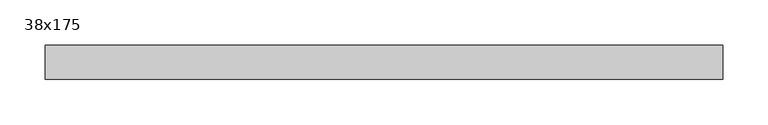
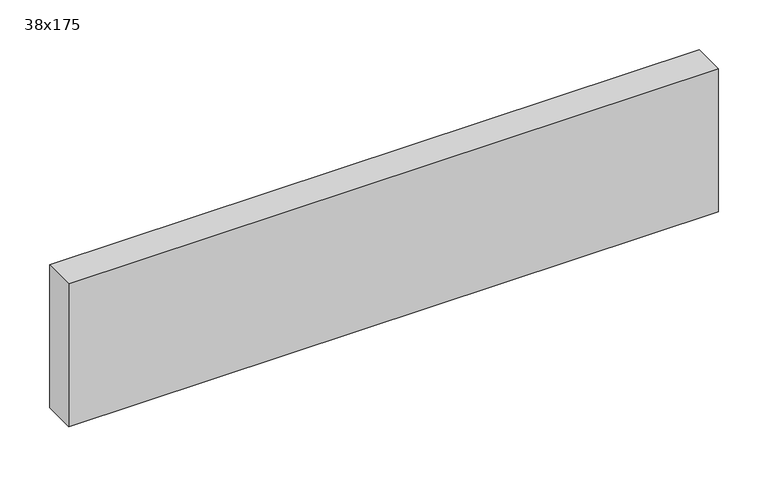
"""IFC4 building model written with IfcOpenShell, lengths in millimetres: beam geometry, Graded Timber : 38x175."""

import ifcopenshell
import ifcopenshell.guid

model = None  # the IFC model being written
_history = None  # IfcOwnerHistory: only IFC2X3 demands one
_inside = {}  # id of a spatial element -> (the spatial element, [elements in it])
_under = {}  # id of a project, library or spatial element -> (it, [spatial elements below it])
_declared = {}  # id of a project -> (the project, [libraries it declares])
_typed = {}  # id of a type object -> (the type object, [elements of that type])
_made_of = {}  # id of a material, layer set ... -> (it, [elements and type objects made of it])


def new_model(schema):
    """Start an empty IFC model of exactly this schema.

    Asked for "IFC4X3", IfcOpenShell would pick the latest addendum, in which some entities
    have other attributes; the version numbers below select the first issue.
    IFC2X3 requires an IfcOwnerHistory on every rooted entity: one is made here for all.
    """
    global model, _history
    if schema == "IFC4X3":
        model = ifcopenshell.file(schema_version=(4, 3, 0, 0))
    else:
        model = ifcopenshell.file(schema=schema)
    _inside.clear()
    _under.clear()
    _declared.clear()
    _typed.clear()
    _made_of.clear()
    _history = None
    if model.schema == "IFC2X3":
        org = make("IfcOrganization", Name="unknown")
        user = make(
            "IfcPersonAndOrganization",
            ThePerson=make("IfcPerson", FamilyName="unknown"),
            TheOrganization=org,
        )
        app = make(
            "IfcApplication",
            ApplicationDeveloper=org,
            Version="unknown",
            ApplicationFullName="unknown",
            ApplicationIdentifier="unknown",
        )
        _history = make(
            "IfcOwnerHistory",
            OwningUser=user,
            OwningApplication=app,
            ChangeAction="ADDED",
            CreationDate=0,
        )
    return model


def make(cls, **values):
    """One entity of the class cls with the attributes given. An attribute that is None is left unset."""
    return model.create_entity(
        cls, **{name: value for name, value in values.items() if value is not None}
    )


def rooted(cls, **values):
    """An entity with a GlobalId (a new one), such as an element, a storey or a relation."""
    return make(cls, GlobalId=ifcopenshell.guid.new(), OwnerHistory=_history, **values)


def si_unit(unit_type, name, prefix=None):
    """IfcSIUnit, for example si_unit("LENGTHUNIT", "METRE", prefix="MILLI")."""
    return make("IfcSIUnit", UnitType=unit_type, Prefix=prefix, Name=name)


def assignment(units):
    """IfcUnitAssignment: the units of a project."""
    return None if units is None else make("IfcUnitAssignment", Units=units)


def point(xyz):
    """IfcCartesianPoint."""
    return None if xyz is None else make("IfcCartesianPoint", Coordinates=xyz)


def direction(xyz):
    """IfcDirection."""
    return None if xyz is None else make("IfcDirection", DirectionRatios=xyz)


def frame(location, z_axis=None, x_axis=None):
    """IfcAxis2Placement3D, a coordinate frame: its origin and axes. An axis left out is left unset."""
    return make(
        "IfcAxis2Placement3D",
        Location=point(location),
        Axis=direction(z_axis),
        RefDirection=direction(x_axis),
    )


def origin():
    """The frame at (0, 0, 0) with its axes left unset."""
    return frame((0.0, 0.0, 0.0))


def place(relative_to, where):
    """IfcLocalPlacement: puts the frame where relative to a parent placement (None: the world)."""
    return make(
        "IfcLocalPlacement", PlacementRelTo=relative_to, RelativePlacement=where
    )


def context(
    kind, dimensions, precision=None, world=None, true_north=None, identifier=None
):
    """IfcGeometricRepresentationContext, for example the 3D "Model" context."""
    return make(
        "IfcGeometricRepresentationContext",
        ContextIdentifier=identifier,
        ContextType=kind,
        CoordinateSpaceDimension=dimensions,
        Precision=precision,
        WorldCoordinateSystem=world,
        TrueNorth=true_north,
    )


def project(units=None, contexts=None):
    """IfcProject with its units and contexts."""
    return rooted(
        "IfcProject",
        Name="project",
        RepresentationContexts=contexts,
        UnitsInContext=assignment(units),
    )


def spatial(cls, under=None, at=None, **own):
    """A site, building, storey or space (cls), placed at a placement, below another one or the project."""
    s = rooted(cls, ObjectPlacement=at, **own)
    if under is not None:
        _under.setdefault(under.id(), (under, []))[1].append(s)
    return s


def polyline(points):
    """IfcPolyline through the points."""
    return make("IfcPolyline", Points=[point(p) for p in points])


def outline(outer, holes=None, kind="AREA"):
    """IfcArbitraryClosedProfileDef: a profile drawn as a closed curve; with holes, ...WithVoids."""
    if holes is None:
        return make("IfcArbitraryClosedProfileDef", ProfileType=kind, OuterCurve=outer)
    return make(
        "IfcArbitraryProfileDefWithVoids",
        ProfileType=kind,
        OuterCurve=outer,
        InnerCurves=holes,
    )


def extrude(swept, where, along, depth):
    """IfcExtrudedAreaSolid: the profile swept, set in the frame where, extruded along a direction by depth."""
    return make(
        "IfcExtrudedAreaSolid",
        SweptArea=swept,
        Position=where,
        ExtrudedDirection=direction(along),
        Depth=depth,
    )


def shape(context_of_items, identifier, shape_type, items):
    """IfcShapeRepresentation: the items that make up one representation, for example the "Body"."""
    return make(
        "IfcShapeRepresentation",
        ContextOfItems=context_of_items,
        RepresentationIdentifier=identifier,
        RepresentationType=shape_type,
        Items=items,
    )


def source(mapping_origin, context_of_items, identifier, shape_type, items):
    """IfcRepresentationMap: a shape defined once, which mapped items show again and again."""
    return make(
        "IfcRepresentationMap",
        MappingOrigin=mapping_origin,
        MappedRepresentation=shape(context_of_items, identifier, shape_type, items),
    )


def transform(
    local_origin,
    x_axis=None,
    y_axis=None,
    z_axis=None,
    scale=None,
    scale2=None,
    scale3=None,
    uniform=True,
):
    """IfcCartesianTransformationOperator3D, or its non-uniform kind. x_axis, y_axis, z_axis: its Axis1, 2, 3."""
    if uniform:
        return make(
            "IfcCartesianTransformationOperator3D",
            Axis1=direction(x_axis),
            Axis2=direction(y_axis),
            LocalOrigin=point(local_origin),
            Scale=scale,
            Axis3=direction(z_axis),
        )
    return make(
        "IfcCartesianTransformationOperator3DnonUniform",
        Axis1=direction(x_axis),
        Axis2=direction(y_axis),
        LocalOrigin=point(local_origin),
        Scale=scale,
        Axis3=direction(z_axis),
        Scale2=scale2,
        Scale3=scale3,
    )


def mapped(mapping_source, mapping_target):
    """IfcMappedItem: shows the shape of a source again, moved by a transform."""
    return make(
        "IfcMappedItem", MappingSource=mapping_source, MappingTarget=mapping_target
    )


def made_of(thing, what):
    """Note that an element or type object is made of a material, layer set ...; save() writes the relation."""
    if what is not None:
        _made_of.setdefault(what.id(), (what, []))[1].append(thing)
    return thing


def element(
    cls,
    number,
    at=None,
    inside=None,
    cuts=None,
    type_object=None,
    material=None,
    context=None,
    identifier="Body",
    shape_type=None,
    held_by="IfcProductDefinitionShape",
    body=None,
    shapes=None,
    **own,
):
    """One element of the class cls, such as IfcWall. Its Tag is "e" and its number.

    at: its placement. inside: the storey or other place that contains it. cuts: it is an
    opening in that element (IfcRelVoidsElement). A single representation is given by context,
    identifier, shape_type and body (its items); several are given by shapes. held_by: the class
    of the entity that holds the representations. save() writes the other relations.
    """
    e = rooted(cls, Tag="e%d" % number, ObjectPlacement=at, **own)
    if body is not None:
        shapes = [shape(context, identifier, shape_type, body)]
    if shapes is not None:
        e.Representation = make(held_by, Representations=shapes)
    if inside is not None:
        _inside.setdefault(inside.id(), (inside, []))[1].append(e)
    if cuts is not None:
        rooted(
            "IfcRelVoidsElement", RelatingBuildingElement=cuts, RelatedOpeningElement=e
        )
    if type_object is not None:
        _typed.setdefault(type_object.id(), (type_object, []))[1].append(e)
    return made_of(e, material)


def aggregate(whole, parts):
    """IfcRelAggregates: a whole, such as a stair, and the parts it consists of."""
    return rooted("IfcRelAggregates", RelatingObject=whole, RelatedObjects=parts)


def save(model, path):
    """Write the relations noted so far, then the file.

    IfcRelAggregates (storeys below a building ...), IfcRelContainedInSpatialStructure (elements
    in a storey), IfcRelDefinesByType, IfcRelAssociatesMaterial and IfcRelDeclares: one each for
    every whole, place, type object, material and project.
    """
    for whole, parts in _under.values():
        aggregate(whole, parts)
    for where, things in _inside.values():
        rooted(
            "IfcRelContainedInSpatialStructure",
            RelatedElements=things,
            RelatingStructure=where,
        )
    for kind, things in _typed.values():
        rooted("IfcRelDefinesByType", RelatedObjects=things, RelatingType=kind)
    for what, things in _made_of.values():
        rooted("IfcRelAssociatesMaterial", RelatedObjects=things, RelatingMaterial=what)
    for by, libraries in _declared.values():
        rooted("IfcRelDeclares", RelatingContext=by, RelatedDefinitions=libraries)
    model.write(path)


def beam_38x175_676dfe6d(model_context):
    return source(origin(), model_context, "Body", "SweptSolid", [
        extrude(outline(polyline([(375.5, 19.0), (375.5, -19.0), (-375.5, -19.0), (-375.5, 19.0), (375.5, 19.0)])), frame((0.0, 0.0, -87.5), z_axis=(0.0, 0.0, 1.0), x_axis=(1.0, 0.0, 0.0)), (0.0, 0.0, 1.0), 175.0),
    ])


if __name__ == "__main__":
    model = new_model("IFC4")
    model_context = context("Model", 3, world=origin())
    ifc_project = project(units=[si_unit("LENGTHUNIT", "METRE", prefix="MILLI")], contexts=[model_context])
    site = spatial("IfcSite", under=ifc_project)
    building = spatial("IfcBuilding", under=site)
    placement = place(None, origin())
    beam_38x175_shape = beam_38x175_676dfe6d(model_context)
    element("IfcBeam", 1, ObjectType="Graded Timber : 38x175", at=placement, inside=building, context=model_context, shape_type="MappedRepresentation", body=[
        mapped(beam_38x175_shape, transform((0.0, 0.0, 0.0), x_axis=(1.0, 0.0, 0.0), y_axis=(0.0, 1.0, 0.0), z_axis=(0.0, 0.0, 1.0))),
    ])
    save(model, "model.ifc")
